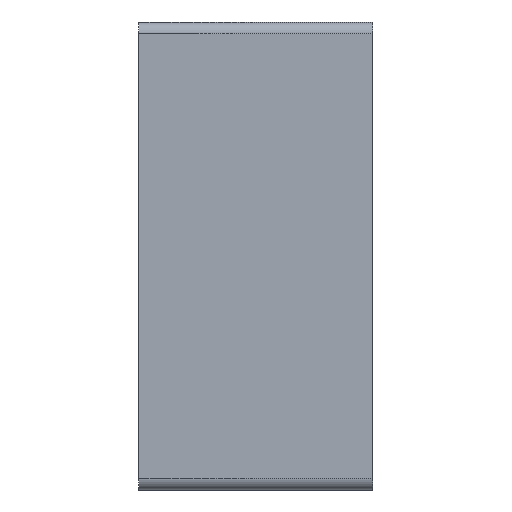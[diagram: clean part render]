
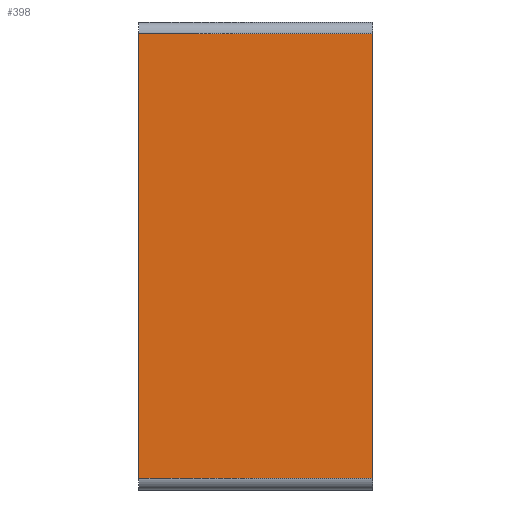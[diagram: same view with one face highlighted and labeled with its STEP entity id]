
A CAD part, left-side view. The second image highlights one B-rep face of the part: STEP entity #398.
In plain terms, the highlighted planar face has unit normal (-1, 0, 0).
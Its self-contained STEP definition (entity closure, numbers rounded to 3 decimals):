
#126 = DIRECTION ( 'NONE',  ( 0., 0., 1. ) ) ;
#149 = VERTEX_POINT ( 'NONE', #682 ) ;
#157 = DIRECTION ( 'NONE',  ( 0., -1., 0. ) ) ;
#197 = LINE ( 'NONE', #790, #777 ) ;
#198 = ORIENTED_EDGE ( 'NONE', *, *, #1185, .F. ) ;
#221 = CARTESIAN_POINT ( 'NONE',  ( -40., 0., -19. ) ) ;
#269 = EDGE_CURVE ( 'Edge27', #467, #1138, #625, .T. ) ;
#276 = VECTOR ( 'NONE', #126, 1000. ) ;
#387 = EDGE_LOOP ( 'NONE', ( #791, #198, #587, #991 ) ) ;
#393 = DIRECTION ( 'NONE',  ( 0., 0., -1. ) ) ;
#398 = ADVANCED_FACE ( 'NONE', ( #484 ), #1160, .F. ) ;
#452 = CARTESIAN_POINT ( 'NONE',  ( -40., 20., -19. ) ) ;
#467 = VERTEX_POINT ( 'NONE', #221 ) ;
#477 = DIRECTION ( 'NONE',  ( 0., 0., 1. ) ) ;
#484 = FACE_OUTER_BOUND ( 'NONE', #387, .T. ) ;
#514 = CARTESIAN_POINT ( 'NONE',  ( -40., 0., -19. ) ) ;
#586 = LINE ( 'NONE', #675, #903 ) ;
#587 = ORIENTED_EDGE ( 'NONE', *, *, #1238, .F. ) ;
#625 = LINE ( 'NONE', #514, #276 ) ;
#665 = DIRECTION ( 'NONE',  ( 1., 0., 0. ) ) ;
#667 = CARTESIAN_POINT ( 'NONE',  ( -40., 20., -19. ) ) ;
#675 = CARTESIAN_POINT ( 'NONE',  ( -40., 20., -19. ) ) ;
#682 = CARTESIAN_POINT ( 'NONE',  ( -40., 20., 19. ) ) ;
#747 = CARTESIAN_POINT ( 'NONE',  ( -40., 0., 19. ) ) ;
#777 = VECTOR ( 'NONE', #892, 1000. ) ;
#790 = CARTESIAN_POINT ( 'NONE',  ( -40., 20., 19. ) ) ;
#791 = ORIENTED_EDGE ( 'NONE', *, *, #269, .T. ) ;
#840 = LINE ( 'NONE', #667, #1087 ) ;
#861 = CARTESIAN_POINT ( 'NONE',  ( -40., 20., -19. ) ) ;
#892 = DIRECTION ( 'NONE',  ( 0., -1., 0. ) ) ;
#903 = VECTOR ( 'NONE', #477, 1000. ) ;
#991 = ORIENTED_EDGE ( 'NONE', *, *, #1115, .T. ) ;
#1061 = VERTEX_POINT ( 'NONE', #452 ) ;
#1064 = AXIS2_PLACEMENT_3D ( 'NONE', #861, #665, #393 ) ;
#1087 = VECTOR ( 'NONE', #157, 1000. ) ;
#1115 = EDGE_CURVE ( 'NONE', #1061, #467, #840, .T. ) ;
#1138 = VERTEX_POINT ( 'NONE', #747 ) ;
#1160 = PLANE ( 'NONE',  #1064 ) ;
#1185 = EDGE_CURVE ( 'NONE', #149, #1138, #197, .T. ) ;
#1238 = EDGE_CURVE ( 'NONE', #1061, #149, #586, .T. ) ;
